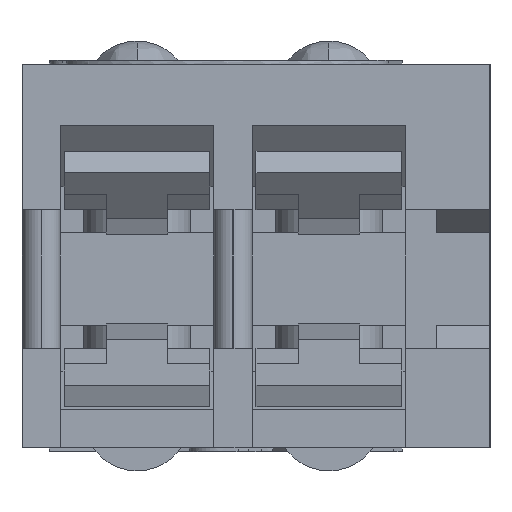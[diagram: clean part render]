
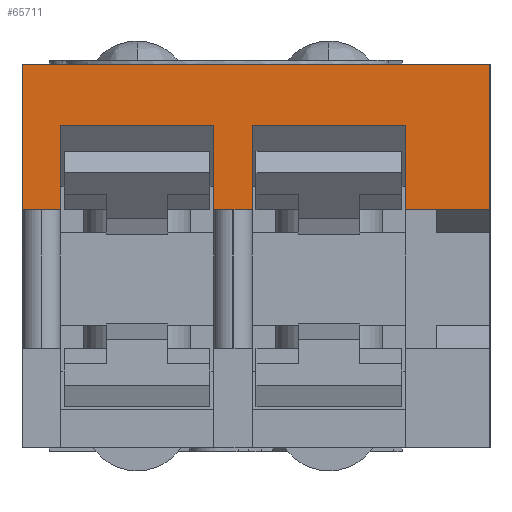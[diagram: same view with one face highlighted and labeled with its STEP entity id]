
A CAD part, left-side view. The second image highlights one B-rep face of the part: STEP entity #65711.
In plain terms, the highlighted planar face has unit normal (-1, 0, 0).
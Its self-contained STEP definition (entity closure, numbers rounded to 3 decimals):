
#60756=CARTESIAN_POINT(' ',(-6.75,0.55,3.1));
#60757=VERTEX_POINT(' ',#60756);
#60771=CARTESIAN_POINT(' ',(-6.75,0.55,3.1));
#60776=DIRECTION(' ',(0.,0.,1.));
#60781=VECTOR(' ',#60776,1.);
#60786=LINE('',#60771,#60781);
#60791=CARTESIAN_POINT(' ',(-6.75,0.55,4.2));
#60792=VERTEX_POINT(' ',#60791);
#60796=EDGE_CURVE(' ',#60757,#60792,#60786,.T.);
#62931=CARTESIAN_POINT(' ',(-6.75,2.55,4.2));
#62932=VERTEX_POINT(' ',#62931);
#62946=CARTESIAN_POINT(' ',(-6.75,2.55,3.1));
#62951=DIRECTION(' ',(0.,0.,1.));
#62956=VECTOR(' ',#62951,1.);
#62961=LINE('',#62946,#62956);
#62966=CARTESIAN_POINT(' ',(-6.75,2.55,3.1));
#62967=VERTEX_POINT(' ',#62966);
#62971=EDGE_CURVE(' ',#62967,#62932,#62961,.T.);
#65251=CARTESIAN_POINT(' ',(-6.75,0.05,3.1));
#65252=VERTEX_POINT(' ',#65251);
#65266=CARTESIAN_POINT(' ',(-6.75,0.05,3.1));
#65271=DIRECTION(' ',(0.,1.,0.));
#65276=VECTOR(' ',#65271,1.);
#65281=LINE('',#65266,#65276);
#65286=EDGE_CURVE(' ',#65252,#60757,#65281,.T.);
#65356=CARTESIAN_POINT(' ',(-6.75,-3.05,3.1));
#65361=DIRECTION(' ',(-1.,0.,-0.));
#65366=DIRECTION(' ',(0.,0.,1.));
#65371=AXIS2_PLACEMENT_3D(' ',#65356,#65361,#65366);
#65376=PLANE(' ',#65371);
#65381=CARTESIAN_POINT(' ',(-6.75,-1.95,3.1));
#65386=DIRECTION(' ',(0.,-1.,0.));
#65391=VECTOR(' ',#65386,1.);
#65396=LINE('',#65381,#65391);
#65401=CARTESIAN_POINT(' ',(-6.75,-1.95,3.1));
#65402=VERTEX_POINT(' ',#65401);
#65406=CARTESIAN_POINT(' ',(-6.75,-3.05,3.1));
#65407=VERTEX_POINT(' ',#65406);
#65411=EDGE_CURVE(' ',#65402,#65407,#65396,.T.);
#65416=ORIENTED_EDGE(' ',*,*,#65411,.T.);
#65421=CARTESIAN_POINT(' ',(-6.75,-3.05,5.));
#65426=DIRECTION(' ',(0.,0.,-1.));
#65431=VECTOR(' ',#65426,1.);
#65436=LINE('',#65421,#65431);
#65441=CARTESIAN_POINT(' ',(-6.75,-3.05,5.));
#65442=VERTEX_POINT(' ',#65441);
#65446=EDGE_CURVE(' ',#65442,#65407,#65436,.T.);
#65451=ORIENTED_EDGE(' ',*,*,#65446,.F.);
#65456=CARTESIAN_POINT(' ',(-6.75,3.05,5.));
#65461=DIRECTION(' ',(0.,-1.,0.));
#65466=VECTOR(' ',#65461,1.);
#65471=LINE('',#65456,#65466);
#65476=CARTESIAN_POINT(' ',(-6.75,3.05,5.));
#65477=VERTEX_POINT(' ',#65476);
#65481=EDGE_CURVE(' ',#65477,#65442,#65471,.T.);
#65486=ORIENTED_EDGE(' ',*,*,#65481,.F.);
#65491=CARTESIAN_POINT(' ',(-6.75,3.05,5.));
#65496=DIRECTION(' ',(0.,0.,-1.));
#65501=VECTOR(' ',#65496,1.);
#65506=LINE('',#65491,#65501);
#65511=CARTESIAN_POINT(' ',(-6.75,3.05,3.1));
#65512=VERTEX_POINT(' ',#65511);
#65516=EDGE_CURVE(' ',#65477,#65512,#65506,.T.);
#65521=ORIENTED_EDGE(' ',*,*,#65516,.T.);
#65526=CARTESIAN_POINT(' ',(-6.75,2.55,3.1));
#65531=DIRECTION(' ',(0.,1.,0.));
#65536=VECTOR(' ',#65531,1.);
#65541=LINE('',#65526,#65536);
#65546=EDGE_CURVE(' ',#62967,#65512,#65541,.T.);
#65551=ORIENTED_EDGE(' ',*,*,#65546,.F.);
#65556=ORIENTED_EDGE(' ',*,*,#62971,.T.);
#65561=CARTESIAN_POINT(' ',(-6.75,2.55,4.2));
#65566=DIRECTION(' ',(0.,-1.,0.));
#65571=VECTOR(' ',#65566,1.);
#65576=LINE('',#65561,#65571);
#65581=EDGE_CURVE(' ',#62932,#60792,#65576,.T.);
#65586=ORIENTED_EDGE(' ',*,*,#65581,.T.);
#65591=ORIENTED_EDGE(' ',*,*,#60796,.F.);
#65596=ORIENTED_EDGE(' ',*,*,#65286,.F.);
#65601=CARTESIAN_POINT(' ',(-6.75,0.05,3.1));
#65606=DIRECTION(' ',(0.,0.,1.));
#65611=VECTOR(' ',#65606,1.);
#65616=LINE('',#65601,#65611);
#65621=CARTESIAN_POINT(' ',(-6.75,0.05,4.2));
#65622=VERTEX_POINT(' ',#65621);
#65626=EDGE_CURVE(' ',#65252,#65622,#65616,.T.);
#65631=ORIENTED_EDGE(' ',*,*,#65626,.T.);
#65636=CARTESIAN_POINT(' ',(-6.75,0.05,4.2));
#65641=DIRECTION(' ',(0.,-1.,0.));
#65646=VECTOR(' ',#65641,1.);
#65651=LINE('',#65636,#65646);
#65656=CARTESIAN_POINT(' ',(-6.75,-1.95,4.2));
#65657=VERTEX_POINT(' ',#65656);
#65661=EDGE_CURVE(' ',#65622,#65657,#65651,.T.);
#65666=ORIENTED_EDGE(' ',*,*,#65661,.T.);
#65671=CARTESIAN_POINT(' ',(-6.75,-1.95,3.1));
#65676=DIRECTION(' ',(0.,0.,1.));
#65681=VECTOR(' ',#65676,1.);
#65686=LINE('',#65671,#65681);
#65691=EDGE_CURVE(' ',#65402,#65657,#65686,.T.);
#65696=ORIENTED_EDGE(' ',*,*,#65691,.F.);
#65701=EDGE_LOOP(' ',(#65416,#65451,#65486,#65521,#65551,#65556,#65586,#65591,#65596,#65631,#65666,#65696));
#65706=FACE_OUTER_BOUND(' ',#65701,.T.);
#65711=ADVANCED_FACE('',(#65706),#65376,.T.);
